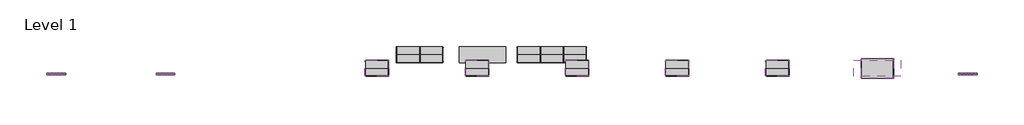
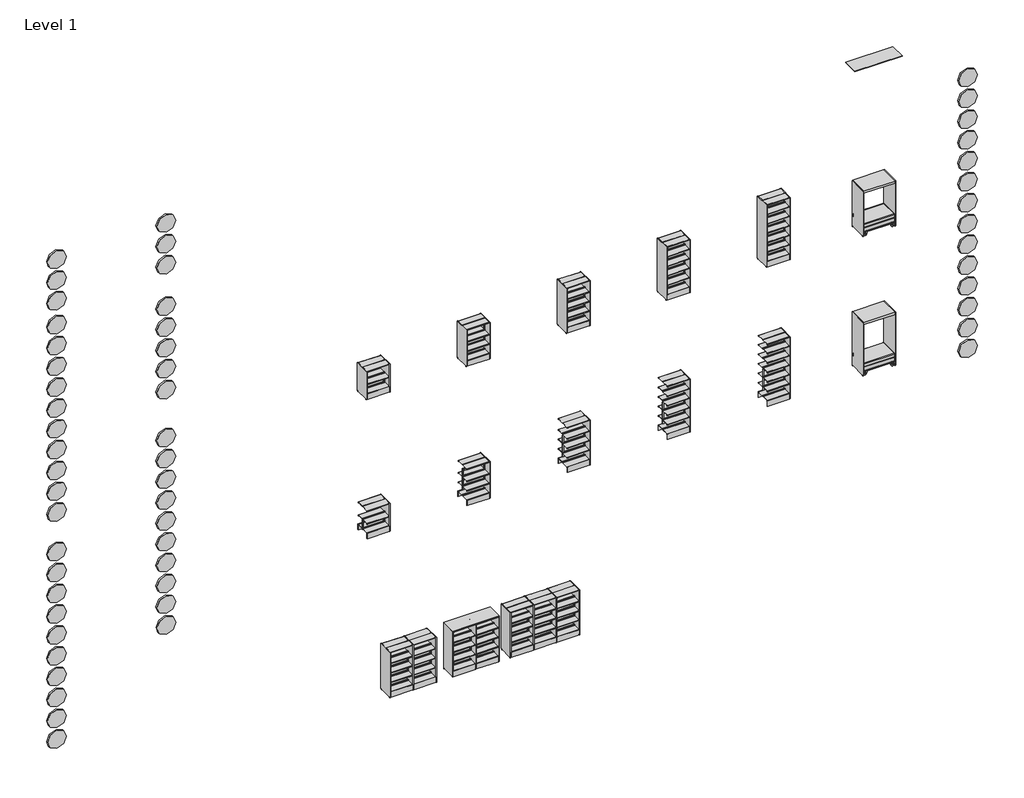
# One storey: 55 proxies, 21 furniture elements.
"""IFC4 building model written with IfcOpenShell, lengths in millimetres."""

from ifc_helpers import new_model, si_unit, origin, place, context, project, spatial, transform, mapped, element, save
from components import materialmodel_materialmodel_37012b21, furniture_c105972a, furniture_34703eb2, furniture_750x510_03b311b1, furniture_750x510_247eee5f, furniture_750x510_6453d18b, furniture_750x510_c864f297, furniture_750x510_94e61f0f, furniture_750x510_f7d4f791, furniture_750x510_ac6173c1, furniture_750x510_6c40ee6c, furniture_750x510_52655885, furniture_750x510_70c1093e, bk_library_sitting_cave_to_shelf_1530_a43be609, bk_library_sitting_cave_to_shelf_1800_9197c93b

model = new_model("IFC4")

# Units and contexts
model_context = context("Model", 3, world=origin())
ifc_project = project(units=[si_unit("LENGTHUNIT", "METRE", prefix="MILLI")], contexts=[model_context])

# Site, building, storey
site = spatial("IfcSite", under=ifc_project)
building = spatial("IfcBuilding", under=site)
storey = spatial("IfcBuildingStorey", under=building, Name="Level 1", Elevation=0.0)

# Proxies
placement = place(None, origin())
materialmodel_materialmodel_shape = materialmodel_materialmodel_37012b21(model_context)
element("IfcBuildingElementProxy", 1, Name="MaterialModel : MaterialModel", ObjectType="MaterialModel : MaterialModel", at=placement, inside=storey, context=model_context, shape_type="MappedRepresentation", body=[
    mapped(materialmodel_materialmodel_shape, transform((-18567.0147555, 6390.3767321, 8420.7797695), x_axis=(1.0, 0.0, 0.0), y_axis=(0.0, 1.0, 0.0), z_axis=(0.0, 0.0, 1.0))),
])
element("IfcBuildingElementProxy", 2, Name="MaterialModel : MaterialModel", ObjectType="MaterialModel : MaterialModel", at=placement, inside=storey, context=model_context, shape_type="MappedRepresentation", body=[
    mapped(materialmodel_materialmodel_shape, transform((-18567.0147555, 6390.3767321, 9123.0950226), x_axis=(1.0, 0.0, 0.0), y_axis=(0.0, 1.0, 0.0), z_axis=(0.0, 0.0, 1.0))),
])
element("IfcBuildingElementProxy", 3, Name="MaterialModel : MaterialModel", ObjectType="MaterialModel : MaterialModel", at=placement, inside=storey, context=model_context, shape_type="MappedRepresentation", body=[
    mapped(materialmodel_materialmodel_shape, transform((-18567.0147555, 6390.3767321, 7718.4645164), x_axis=(1.0, 0.0, 0.0), y_axis=(0.0, 1.0, 0.0), z_axis=(0.0, 0.0, 1.0))),
])
element("IfcBuildingElementProxy", 4, Name="MaterialModel : MaterialModel", ObjectType="MaterialModel : MaterialModel", at=placement, inside=storey, context=model_context, shape_type="MappedRepresentation", body=[
    mapped(materialmodel_materialmodel_shape, transform((-18567.0147555, 6390.3767321, 6313.8340103), x_axis=(1.0, 0.0, 0.0), y_axis=(0.0, 1.0, 0.0), z_axis=(0.0, 0.0, 1.0))),
])
element("IfcBuildingElementProxy", 5, Name="MaterialModel : MaterialModel", ObjectType="MaterialModel : MaterialModel", at=placement, inside=storey, context=model_context, shape_type="MappedRepresentation", body=[
    mapped(materialmodel_materialmodel_shape, transform((-18567.0147555, 6390.3767321, 5611.5187572), x_axis=(1.0, 0.0, 0.0), y_axis=(0.0, 1.0, 0.0), z_axis=(0.0, 0.0, 1.0))),
])
element("IfcBuildingElementProxy", 6, Name="MaterialModel : MaterialModel", ObjectType="MaterialModel : MaterialModel", at=placement, inside=storey, context=model_context, shape_type="MappedRepresentation", body=[
    mapped(materialmodel_materialmodel_shape, transform((-18567.0147555, 6390.3767321, 4909.2035041), x_axis=(1.0, 0.0, 0.0), y_axis=(0.0, 1.0, 0.0), z_axis=(0.0, 0.0, 1.0))),
])
element("IfcBuildingElementProxy", 7, Name="MaterialModel : MaterialModel", ObjectType="MaterialModel : MaterialModel", at=placement, inside=storey, context=model_context, shape_type="MappedRepresentation", body=[
    mapped(materialmodel_materialmodel_shape, transform((-18567.0147555, 6390.3767321, 4206.888251), x_axis=(1.0, 0.0, 0.0), y_axis=(0.0, 1.0, 0.0), z_axis=(0.0, 0.0, 1.0))),
])
element("IfcBuildingElementProxy", 8, Name="MaterialModel : MaterialModel", ObjectType="MaterialModel : MaterialModel", at=placement, inside=storey, context=model_context, shape_type="MappedRepresentation", body=[
    mapped(materialmodel_materialmodel_shape, transform((-18567.0147555, 6390.3767321, 3504.5729979), x_axis=(1.0, 0.0, 0.0), y_axis=(0.0, 1.0, 0.0), z_axis=(0.0, 0.0, 1.0))),
])
element("IfcBuildingElementProxy", 9, Name="MaterialModel : MaterialModel", ObjectType="MaterialModel : MaterialModel", at=placement, inside=storey, context=model_context, shape_type="MappedRepresentation", body=[
    mapped(materialmodel_materialmodel_shape, transform((-18567.0147555, 6390.3767321, 1880.2904747), x_axis=(1.0, 0.0, 0.0), y_axis=(0.0, 1.0, 0.0), z_axis=(0.0, 0.0, 1.0))),
])
element("IfcBuildingElementProxy", 10, Name="MaterialModel : MaterialModel", ObjectType="MaterialModel : MaterialModel", at=placement, inside=storey, context=model_context, shape_type="MappedRepresentation", body=[
    mapped(materialmodel_materialmodel_shape, transform((-18567.0147555, 6390.3767321, 475.6599685), x_axis=(1.0, 0.0, 0.0), y_axis=(0.0, 1.0, 0.0), z_axis=(0.0, 0.0, 1.0))),
])
element("IfcBuildingElementProxy", 11, Name="MaterialModel : MaterialModel", ObjectType="MaterialModel : MaterialModel", at=placement, inside=storey, context=model_context, shape_type="MappedRepresentation", body=[
    mapped(materialmodel_materialmodel_shape, transform((-18567.0147555, 6390.3767321, 1177.9752216), x_axis=(1.0, 0.0, 0.0), y_axis=(0.0, 1.0, 0.0), z_axis=(0.0, 0.0, 1.0))),
])
element("IfcBuildingElementProxy", 12, Name="MaterialModel : MaterialModel", ObjectType="MaterialModel : MaterialModel", at=placement, inside=storey, context=model_context, shape_type="MappedRepresentation", body=[
    mapped(materialmodel_materialmodel_shape, transform((-18567.0147555, 6390.3767321, -928.9705377), x_axis=(1.0, 0.0, 0.0), y_axis=(0.0, 1.0, 0.0), z_axis=(0.0, 0.0, 1.0))),
])
element("IfcBuildingElementProxy", 13, Name="MaterialModel : MaterialModel", ObjectType="MaterialModel : MaterialModel", at=placement, inside=storey, context=model_context, shape_type="MappedRepresentation", body=[
    mapped(materialmodel_materialmodel_shape, transform((-18567.0147555, 6390.3767321, -226.6552846), x_axis=(1.0, 0.0, 0.0), y_axis=(0.0, 1.0, 0.0), z_axis=(0.0, 0.0, 1.0))),
])
element("IfcBuildingElementProxy", 14, Name="MaterialModel : MaterialModel", ObjectType="MaterialModel : MaterialModel", at=placement, inside=storey, context=model_context, shape_type="MappedRepresentation", body=[
    mapped(materialmodel_materialmodel_shape, transform((-18567.0147555, 6390.3767321, -2333.6010438), x_axis=(1.0, 0.0, 0.0), y_axis=(0.0, 1.0, 0.0), z_axis=(0.0, 0.0, 1.0))),
])
element("IfcBuildingElementProxy", 15, Name="MaterialModel : MaterialModel", ObjectType="MaterialModel : MaterialModel", at=placement, inside=storey, context=model_context, shape_type="MappedRepresentation", body=[
    mapped(materialmodel_materialmodel_shape, transform((-18567.0147555, 6390.3767321, -1631.2857907), x_axis=(1.0, 0.0, 0.0), y_axis=(0.0, 1.0, 0.0), z_axis=(0.0, 0.0, 1.0))),
])
element("IfcBuildingElementProxy", 16, Name="MaterialModel : MaterialModel", ObjectType="MaterialModel : MaterialModel", at=placement, inside=storey, context=model_context, shape_type="MappedRepresentation", body=[
    mapped(materialmodel_materialmodel_shape, transform((-18567.0147555, 6390.3767321, -3738.23155), x_axis=(1.0, 0.0, 0.0), y_axis=(0.0, 1.0, 0.0), z_axis=(0.0, 0.0, 1.0))),
])
element("IfcBuildingElementProxy", 17, Name="MaterialModel : MaterialModel", ObjectType="MaterialModel : MaterialModel", at=placement, inside=storey, context=model_context, shape_type="MappedRepresentation", body=[
    mapped(materialmodel_materialmodel_shape, transform((-18567.0147555, 6390.3767321, -3035.9162969), x_axis=(1.0, 0.0, 0.0), y_axis=(0.0, 1.0, 0.0), z_axis=(0.0, 0.0, 1.0))),
])
element("IfcBuildingElementProxy", 18, Name="MaterialModel : MaterialModel", ObjectType="MaterialModel : MaterialModel", at=placement, inside=storey, context=model_context, shape_type="MappedRepresentation", body=[
    mapped(materialmodel_materialmodel_shape, transform((-18562.8693038, 6390.3767321, -4440.5468031), x_axis=(1.0, 0.0, 0.0), y_axis=(0.0, 1.0, 0.0), z_axis=(0.0, 0.0, 1.0))),
])
element("IfcBuildingElementProxy", 19, Name="MaterialModel : MaterialModel", ObjectType="MaterialModel : MaterialModel", at=placement, inside=storey, context=model_context, shape_type="MappedRepresentation", body=[
    mapped(materialmodel_materialmodel_shape, transform((6997.3918806, 6390.3767321, 4380.0096307), x_axis=(1.0, 0.0, 0.0), y_axis=(0.0, 1.0, 0.0), z_axis=(0.0, 0.0, 1.0))),
])
element("IfcBuildingElementProxy", 20, Name="MaterialModel : MaterialModel", ObjectType="MaterialModel : MaterialModel", at=placement, inside=storey, context=model_context, shape_type="MappedRepresentation", body=[
    mapped(materialmodel_materialmodel_shape, transform((6997.3918806, 6390.3767321, 5082.3248837), x_axis=(1.0, 0.0, 0.0), y_axis=(0.0, 1.0, 0.0), z_axis=(0.0, 0.0, 1.0))),
])
element("IfcBuildingElementProxy", 21, Name="MaterialModel : MaterialModel", ObjectType="MaterialModel : MaterialModel", at=placement, inside=storey, context=model_context, shape_type="MappedRepresentation", body=[
    mapped(materialmodel_materialmodel_shape, transform((6997.3918806, 6390.3767321, 2975.3791245), x_axis=(1.0, 0.0, 0.0), y_axis=(0.0, 1.0, 0.0), z_axis=(0.0, 0.0, 1.0))),
])
element("IfcBuildingElementProxy", 22, Name="MaterialModel : MaterialModel", ObjectType="MaterialModel : MaterialModel", at=placement, inside=storey, context=model_context, shape_type="MappedRepresentation", body=[
    mapped(materialmodel_materialmodel_shape, transform((6997.3918806, 6390.3767321, 3677.6943776), x_axis=(1.0, 0.0, 0.0), y_axis=(0.0, 1.0, 0.0), z_axis=(0.0, 0.0, 1.0))),
])
element("IfcBuildingElementProxy", 23, Name="MaterialModel : MaterialModel", ObjectType="MaterialModel : MaterialModel", at=placement, inside=storey, context=model_context, shape_type="MappedRepresentation", body=[
    mapped(materialmodel_materialmodel_shape, transform((6997.3918806, 6390.3767321, 1570.7486183), x_axis=(1.0, 0.0, 0.0), y_axis=(0.0, 1.0, 0.0), z_axis=(0.0, 0.0, 1.0))),
])
element("IfcBuildingElementProxy", 24, Name="MaterialModel : MaterialModel", ObjectType="MaterialModel : MaterialModel", at=placement, inside=storey, context=model_context, shape_type="MappedRepresentation", body=[
    mapped(materialmodel_materialmodel_shape, transform((6997.3918806, 6390.3767321, 2273.0638714), x_axis=(1.0, 0.0, 0.0), y_axis=(0.0, 1.0, 0.0), z_axis=(0.0, 0.0, 1.0))),
])
element("IfcBuildingElementProxy", 25, Name="MaterialModel : MaterialModel", ObjectType="MaterialModel : MaterialModel", at=placement, inside=storey, context=model_context, shape_type="MappedRepresentation", body=[
    mapped(materialmodel_materialmodel_shape, transform((6997.3918806, 6390.3767321, 857.8970235), x_axis=(1.0, 0.0, 0.0), y_axis=(0.0, 1.0, 0.0), z_axis=(0.0, 0.0, 1.0))),
])
element("IfcBuildingElementProxy", 26, Name="MaterialModel : MaterialModel", ObjectType="MaterialModel : MaterialModel", at=placement, inside=storey, context=model_context, shape_type="MappedRepresentation", body=[
    mapped(materialmodel_materialmodel_shape, transform((6997.3918806, 6390.3767321, -546.7334827), x_axis=(1.0, 0.0, 0.0), y_axis=(0.0, 1.0, 0.0), z_axis=(0.0, 0.0, 1.0))),
])
element("IfcBuildingElementProxy", 27, Name="MaterialModel : MaterialModel", ObjectType="MaterialModel : MaterialModel", at=placement, inside=storey, context=model_context, shape_type="MappedRepresentation", body=[
    mapped(materialmodel_materialmodel_shape, transform((6997.3918806, 6390.3767321, 155.5817704), x_axis=(1.0, 0.0, 0.0), y_axis=(0.0, 1.0, 0.0), z_axis=(0.0, 0.0, 1.0))),
])
element("IfcBuildingElementProxy", 28, Name="MaterialModel : MaterialModel", ObjectType="MaterialModel : MaterialModel", at=placement, inside=storey, context=model_context, shape_type="MappedRepresentation", body=[
    mapped(materialmodel_materialmodel_shape, transform((6997.3918806, 6390.3767321, -1951.3639888), x_axis=(1.0, 0.0, 0.0), y_axis=(0.0, 1.0, 0.0), z_axis=(0.0, 0.0, 1.0))),
])
element("IfcBuildingElementProxy", 29, Name="MaterialModel : MaterialModel", ObjectType="MaterialModel : MaterialModel", at=placement, inside=storey, context=model_context, shape_type="MappedRepresentation", body=[
    mapped(materialmodel_materialmodel_shape, transform((6997.3918806, 6390.3767321, -1249.0487358), x_axis=(1.0, 0.0, 0.0), y_axis=(0.0, 1.0, 0.0), z_axis=(0.0, 0.0, 1.0))),
])
element("IfcBuildingElementProxy", 30, Name="MaterialModel : MaterialModel", ObjectType="MaterialModel : MaterialModel", at=placement, inside=storey, context=model_context, shape_type="MappedRepresentation", body=[
    mapped(materialmodel_materialmodel_shape, transform((6997.3918806, 6390.3767321, -3355.994495), x_axis=(1.0, 0.0, 0.0), y_axis=(0.0, 1.0, 0.0), z_axis=(0.0, 0.0, 1.0))),
])
element("IfcBuildingElementProxy", 31, Name="MaterialModel : MaterialModel", ObjectType="MaterialModel : MaterialModel", at=placement, inside=storey, context=model_context, shape_type="MappedRepresentation", body=[
    mapped(materialmodel_materialmodel_shape, transform((6997.3918806, 6390.3767321, -2653.6792419), x_axis=(1.0, 0.0, 0.0), y_axis=(0.0, 1.0, 0.0), z_axis=(0.0, 0.0, 1.0))),
])
element("IfcBuildingElementProxy", 32, Name="MaterialModel : MaterialModel", ObjectType="MaterialModel : MaterialModel", at=placement, inside=storey, context=model_context, shape_type="MappedRepresentation", body=[
    mapped(materialmodel_materialmodel_shape, transform((7001.5373322, 6390.3767321, -4058.3097481), x_axis=(1.0, 0.0, 0.0), y_axis=(0.0, 1.0, 0.0), z_axis=(0.0, 0.0, 1.0))),
])
element("IfcBuildingElementProxy", 33, Name="MaterialModel : MaterialModel", ObjectType="MaterialModel : MaterialModel", at=placement, inside=storey, context=model_context, shape_type="MappedRepresentation", body=[
    mapped(materialmodel_materialmodel_shape, transform((-22054.7019973, 6390.3767321, -742.9434338), x_axis=(1.0, 0.0, 0.0), y_axis=(0.0, 1.0, 0.0), z_axis=(0.0, 0.0, 1.0))),
])
element("IfcBuildingElementProxy", 34, Name="MaterialModel : MaterialModel", ObjectType="MaterialModel : MaterialModel", at=placement, inside=storey, context=model_context, shape_type="MappedRepresentation", body=[
    mapped(materialmodel_materialmodel_shape, transform((-22054.7019973, 6390.3767321, -2147.57394), x_axis=(1.0, 0.0, 0.0), y_axis=(0.0, 1.0, 0.0), z_axis=(0.0, 0.0, 1.0))),
])
element("IfcBuildingElementProxy", 35, Name="MaterialModel : MaterialModel", ObjectType="MaterialModel : MaterialModel", at=placement, inside=storey, context=model_context, shape_type="MappedRepresentation", body=[
    mapped(materialmodel_materialmodel_shape, transform((-22054.7019973, 6390.3767321, -1445.2586869), x_axis=(1.0, 0.0, 0.0), y_axis=(0.0, 1.0, 0.0), z_axis=(0.0, 0.0, 1.0))),
])
element("IfcBuildingElementProxy", 36, Name="MaterialModel : MaterialModel", ObjectType="MaterialModel : MaterialModel", at=placement, inside=storey, context=model_context, shape_type="MappedRepresentation", body=[
    mapped(materialmodel_materialmodel_shape, transform((-22054.7019973, 6390.3767321, -3552.2044461), x_axis=(1.0, 0.0, 0.0), y_axis=(0.0, 1.0, 0.0), z_axis=(0.0, 0.0, 1.0))),
])
element("IfcBuildingElementProxy", 37, Name="MaterialModel : MaterialModel", ObjectType="MaterialModel : MaterialModel", at=placement, inside=storey, context=model_context, shape_type="MappedRepresentation", body=[
    mapped(materialmodel_materialmodel_shape, transform((-22054.7019973, 6390.3767321, -2849.8891931), x_axis=(1.0, 0.0, 0.0), y_axis=(0.0, 1.0, 0.0), z_axis=(0.0, 0.0, 1.0))),
])
element("IfcBuildingElementProxy", 38, Name="MaterialModel : MaterialModel", ObjectType="MaterialModel : MaterialModel", at=placement, inside=storey, context=model_context, shape_type="MappedRepresentation", body=[
    mapped(materialmodel_materialmodel_shape, transform((-22054.7019973, 6390.3767321, -4956.8349523), x_axis=(1.0, 0.0, 0.0), y_axis=(0.0, 1.0, 0.0), z_axis=(0.0, 0.0, 1.0))),
])
element("IfcBuildingElementProxy", 39, Name="MaterialModel : MaterialModel", ObjectType="MaterialModel : MaterialModel", at=placement, inside=storey, context=model_context, shape_type="MappedRepresentation", body=[
    mapped(materialmodel_materialmodel_shape, transform((-22054.7019973, 6390.3767321, -4254.5196992), x_axis=(1.0, 0.0, 0.0), y_axis=(0.0, 1.0, 0.0), z_axis=(0.0, 0.0, 1.0))),
])
element("IfcBuildingElementProxy", 40, Name="MaterialModel : MaterialModel", ObjectType="MaterialModel : MaterialModel", at=placement, inside=storey, context=model_context, shape_type="MappedRepresentation", body=[
    mapped(materialmodel_materialmodel_shape, transform((-22054.7019973, 6390.3767321, -6361.4654585), x_axis=(1.0, 0.0, 0.0), y_axis=(0.0, 1.0, 0.0), z_axis=(0.0, 0.0, 1.0))),
])
element("IfcBuildingElementProxy", 41, Name="MaterialModel : MaterialModel", ObjectType="MaterialModel : MaterialModel", at=placement, inside=storey, context=model_context, shape_type="MappedRepresentation", body=[
    mapped(materialmodel_materialmodel_shape, transform((-22054.7019973, 6390.3767321, -5659.1502054), x_axis=(1.0, 0.0, 0.0), y_axis=(0.0, 1.0, 0.0), z_axis=(0.0, 0.0, 1.0))),
])
element("IfcBuildingElementProxy", 42, Name="MaterialModel : MaterialModel", ObjectType="MaterialModel : MaterialModel", at=placement, inside=storey, context=model_context, shape_type="MappedRepresentation", body=[
    mapped(materialmodel_materialmodel_shape, transform((-22050.5565457, 6390.3767321, -7063.7807116), x_axis=(1.0, 0.0, 0.0), y_axis=(0.0, 1.0, 0.0), z_axis=(0.0, 0.0, 1.0))),
])
element("IfcBuildingElementProxy", 43, Name="MaterialModel : MaterialModel", ObjectType="MaterialModel : MaterialModel", at=placement, inside=storey, context=model_context, shape_type="MappedRepresentation", body=[
    mapped(materialmodel_materialmodel_shape, transform((-22054.7019973, 6390.3767321, 8420.7797695), x_axis=(1.0, 0.0, 0.0), y_axis=(0.0, 1.0, 0.0), z_axis=(0.0, 0.0, 1.0))),
])
element("IfcBuildingElementProxy", 44, Name="MaterialModel : MaterialModel", ObjectType="MaterialModel : MaterialModel", at=placement, inside=storey, context=model_context, shape_type="MappedRepresentation", body=[
    mapped(materialmodel_materialmodel_shape, transform((-22054.7019973, 6390.3767321, 9123.0950226), x_axis=(1.0, 0.0, 0.0), y_axis=(0.0, 1.0, 0.0), z_axis=(0.0, 0.0, 1.0))),
])
element("IfcBuildingElementProxy", 45, Name="MaterialModel : MaterialModel", ObjectType="MaterialModel : MaterialModel", at=placement, inside=storey, context=model_context, shape_type="MappedRepresentation", body=[
    mapped(materialmodel_materialmodel_shape, transform((-22054.7019973, 6390.3767321, 6913.8340103), x_axis=(1.0, 0.0, 0.0), y_axis=(0.0, 1.0, 0.0), z_axis=(0.0, 0.0, 1.0))),
])
element("IfcBuildingElementProxy", 46, Name="MaterialModel : MaterialModel", ObjectType="MaterialModel : MaterialModel", at=placement, inside=storey, context=model_context, shape_type="MappedRepresentation", body=[
    mapped(materialmodel_materialmodel_shape, transform((-22054.7019973, 6390.3767321, 7718.4645164), x_axis=(1.0, 0.0, 0.0), y_axis=(0.0, 1.0, 0.0), z_axis=(0.0, 0.0, 1.0))),
])
element("IfcBuildingElementProxy", 47, Name="MaterialModel : MaterialModel", ObjectType="MaterialModel : MaterialModel", at=placement, inside=storey, context=model_context, shape_type="MappedRepresentation", body=[
    mapped(materialmodel_materialmodel_shape, transform((-22054.7019973, 6390.3767321, 5509.2035041), x_axis=(1.0, 0.0, 0.0), y_axis=(0.0, 1.0, 0.0), z_axis=(0.0, 0.0, 1.0))),
])
element("IfcBuildingElementProxy", 48, Name="MaterialModel : MaterialModel", ObjectType="MaterialModel : MaterialModel", at=placement, inside=storey, context=model_context, shape_type="MappedRepresentation", body=[
    mapped(materialmodel_materialmodel_shape, transform((-22054.7019973, 6390.3767321, 6211.5187572), x_axis=(1.0, 0.0, 0.0), y_axis=(0.0, 1.0, 0.0), z_axis=(0.0, 0.0, 1.0))),
])
element("IfcBuildingElementProxy", 49, Name="MaterialModel : MaterialModel", ObjectType="MaterialModel : MaterialModel", at=placement, inside=storey, context=model_context, shape_type="MappedRepresentation", body=[
    mapped(materialmodel_materialmodel_shape, transform((-22054.7019973, 6390.3767321, 4104.5729979), x_axis=(1.0, 0.0, 0.0), y_axis=(0.0, 1.0, 0.0), z_axis=(0.0, 0.0, 1.0))),
])
element("IfcBuildingElementProxy", 50, Name="MaterialModel : MaterialModel", ObjectType="MaterialModel : MaterialModel", at=placement, inside=storey, context=model_context, shape_type="MappedRepresentation", body=[
    mapped(materialmodel_materialmodel_shape, transform((-22054.7019973, 6390.3767321, 4806.888251), x_axis=(1.0, 0.0, 0.0), y_axis=(0.0, 1.0, 0.0), z_axis=(0.0, 0.0, 1.0))),
])
element("IfcBuildingElementProxy", 51, Name="MaterialModel : MaterialModel", ObjectType="MaterialModel : MaterialModel", at=placement, inside=storey, context=model_context, shape_type="MappedRepresentation", body=[
    mapped(materialmodel_materialmodel_shape, transform((-22054.7019973, 6390.3767321, 2699.9424918), x_axis=(1.0, 0.0, 0.0), y_axis=(0.0, 1.0, 0.0), z_axis=(0.0, 0.0, 1.0))),
])
element("IfcBuildingElementProxy", 52, Name="MaterialModel : MaterialModel", ObjectType="MaterialModel : MaterialModel", at=placement, inside=storey, context=model_context, shape_type="MappedRepresentation", body=[
    mapped(materialmodel_materialmodel_shape, transform((-22054.7019973, 6390.3767321, 3402.2577448), x_axis=(1.0, 0.0, 0.0), y_axis=(0.0, 1.0, 0.0), z_axis=(0.0, 0.0, 1.0))),
])
element("IfcBuildingElementProxy", 53, Name="MaterialModel : MaterialModel", ObjectType="MaterialModel : MaterialModel", at=placement, inside=storey, context=model_context, shape_type="MappedRepresentation", body=[
    mapped(materialmodel_materialmodel_shape, transform((-22054.7019973, 6390.3767321, 1295.3119856), x_axis=(1.0, 0.0, 0.0), y_axis=(0.0, 1.0, 0.0), z_axis=(0.0, 0.0, 1.0))),
])
element("IfcBuildingElementProxy", 54, Name="MaterialModel : MaterialModel", ObjectType="MaterialModel : MaterialModel", at=placement, inside=storey, context=model_context, shape_type="MappedRepresentation", body=[
    mapped(materialmodel_materialmodel_shape, transform((-22054.7019973, 6390.3767321, 1997.6272387), x_axis=(1.0, 0.0, 0.0), y_axis=(0.0, 1.0, 0.0), z_axis=(0.0, 0.0, 1.0))),
])
element("IfcBuildingElementProxy", 55, Name="MaterialModel : MaterialModel", ObjectType="MaterialModel : MaterialModel", at=placement, inside=storey, context=model_context, shape_type="MappedRepresentation", body=[
    mapped(materialmodel_materialmodel_shape, transform((-22050.5565457, 6390.3767321, 592.9967325), x_axis=(1.0, 0.0, 0.0), y_axis=(0.0, 1.0, 0.0), z_axis=(0.0, 0.0, 1.0))),
])

# Furniture
furniture_shape = furniture_c105972a(model_context)
element("IfcFurniture", 56, ObjectType="BK Library - Top Plate - HYOT : BK Library - Top Plate - HYOT", at=placement, inside=storey, context=model_context, shape_type="MappedRepresentation", body=[
    mapped(furniture_shape, transform((4114.1302204, 6539.3767164, 6900.3766671), x_axis=(1.0, 0.0, 0.0), y_axis=(0.0, 1.0, 0.0), z_axis=(0.0, 0.0, 1.0))),
])
furniture_2_shape = furniture_34703eb2(model_context)
element("IfcFurniture", 57, ObjectType="BK Library - Top Plate - HYOT : BK Library - Top Plate - HYOT", at=placement, inside=storey, context=model_context, shape_type="MappedRepresentation", body=[
    mapped(furniture_2_shape, transform((-8465.6341915, 6981.3401314, -7860.5), x_axis=(1.0, 0.0, 0.0), y_axis=(0.0, 1.0, 0.0), z_axis=(0.0, 0.0, 1.0))),
])
furniture_750x510_shape = furniture_750x510_03b311b1(model_context)
element("IfcFurniture", 58, ObjectType="BK Library - Rondus DS - 2100 : 750x510", at=placement, inside=storey, context=model_context, shape_type="MappedRepresentation", body=[
    mapped(furniture_750x510_shape, transform((924.1302204, 6539.3767164, 1273.9383366), x_axis=(1.0, 0.0, 0.0), y_axis=(0.0, 1.0, 0.0), z_axis=(0.0, 0.0, 1.0))),
])
furniture_750x510_2_shape = furniture_750x510_247eee5f(model_context)
element("IfcFurniture", 59, ObjectType="BK Library - Rondus DS - 1800 : 750x510", at=placement, inside=storey, context=model_context, shape_type="MappedRepresentation", body=[
    mapped(furniture_750x510_2_shape, transform((-2265.8697796, 6539.3767164, 1273.9383366), x_axis=(1.0, 0.0, 0.0), y_axis=(0.0, 1.0, 0.0), z_axis=(0.0, 0.0, 1.0))),
])
furniture_750x510_3_shape = furniture_750x510_6453d18b(model_context)
element("IfcFurniture", 60, ObjectType="BK Library - Rondus DS - 1530 : 750x510", at=placement, inside=storey, context=model_context, shape_type="MappedRepresentation", body=[
    mapped(furniture_750x510_3_shape, transform((-10831.1347342, 6981.3401314, -9400.0), x_axis=(1.0, 0.0, 0.0), y_axis=(0.0, 1.0, 0.0), z_axis=(0.0, 0.0, 1.0))),
])
element("IfcFurniture", 61, ObjectType="BK Library - Rondus DS - 1530 : 750x510", at=placement, inside=storey, context=model_context, shape_type="MappedRepresentation", body=[
    mapped(furniture_750x510_3_shape, transform((-6991.1347342, 6981.3401314, -9400.0), x_axis=(1.0, 0.0, 0.0), y_axis=(0.0, 1.0, 0.0), z_axis=(0.0, 0.0, 1.0))),
])
element("IfcFurniture", 62, ObjectType="BK Library - Rondus DS - 1530 : 750x510", at=placement, inside=storey, context=model_context, shape_type="MappedRepresentation", body=[
    mapped(furniture_750x510_3_shape, transform((-5455.8697796, 6539.3767164, 1273.9383366), x_axis=(1.0, 0.0, 0.0), y_axis=(0.0, 1.0, 0.0), z_axis=(0.0, 0.0, 1.0))),
])
element("IfcFurniture", 63, ObjectType="BK Library - Rondus DS - 1530 : 750x510", at=placement, inside=storey, context=model_context, shape_type="MappedRepresentation", body=[
    mapped(furniture_750x510_3_shape, transform((-8831.1347342, 6981.3401314, -9400.0), x_axis=(1.0, 0.0, 0.0), y_axis=(0.0, 1.0, 0.0), z_axis=(0.0, 0.0, 1.0))),
])
furniture_750x510_4_shape = furniture_750x510_c864f297(model_context)
element("IfcFurniture", 64, ObjectType="BK Library - Rondus DS - 1240 : 750x510", at=placement, inside=storey, context=model_context, shape_type="MappedRepresentation", body=[
    mapped(furniture_750x510_4_shape, transform((-8645.8697796, 6539.3767164, 1273.9383366), x_axis=(1.0, 0.0, 0.0), y_axis=(0.0, 1.0, 0.0), z_axis=(0.0, 0.0, 1.0))),
])
furniture_750x510_5_shape = furniture_750x510_94e61f0f(model_context)
element("IfcFurniture", 65, ObjectType="BK Library - Rondus DS - 950 : 750x510", at=placement, inside=storey, context=model_context, shape_type="MappedRepresentation", body=[
    mapped(furniture_750x510_5_shape, transform((-11835.8697796, 6539.3767164, 1273.9383366), x_axis=(1.0, 0.0, 0.0), y_axis=(0.0, 1.0, 0.0), z_axis=(0.0, 0.0, 1.0))),
])
furniture_750x510_6_shape = furniture_750x510_f7d4f791(model_context)
element("IfcFurniture", 66, ObjectType="BK Library - Rondus DF - 2100 : 750x510", at=placement, inside=storey, context=model_context, shape_type="MappedRepresentation", body=[
    mapped(furniture_750x510_6_shape, transform((924.1302204, 6539.3767164, -3426.0616634), x_axis=(1.0, 0.0, 0.0), y_axis=(0.0, 1.0, 0.0), z_axis=(0.0, 0.0, 1.0))),
])
furniture_750x510_7_shape = furniture_750x510_ac6173c1(model_context)
element("IfcFurniture", 67, ObjectType="BK Library - Rondus DF - 1800 : 750x510", at=placement, inside=storey, context=model_context, shape_type="MappedRepresentation", body=[
    mapped(furniture_750x510_7_shape, transform((-2265.8697796, 6539.3767164, -3426.0616634), x_axis=(1.0, 0.0, 0.0), y_axis=(0.0, 1.0, 0.0), z_axis=(0.0, 0.0, 1.0))),
])
furniture_750x510_8_shape = furniture_750x510_6c40ee6c(model_context)
element("IfcFurniture", 68, ObjectType="BK Library - Rondus DF - 1530 : 750x510", at=placement, inside=storey, context=model_context, shape_type="MappedRepresentation", body=[
    mapped(furniture_750x510_8_shape, transform((-10100.1347342, 6981.3401314, -9400.0), x_axis=(1.0, 0.0, 0.0), y_axis=(0.0, 1.0, 0.0), z_axis=(0.0, 0.0, 1.0))),
])
element("IfcFurniture", 69, ObjectType="BK Library - Rondus DF - 1530 : 750x510", at=placement, inside=storey, context=model_context, shape_type="MappedRepresentation", body=[
    mapped(furniture_750x510_8_shape, transform((-6260.1347342, 6981.3401314, -9400.0), x_axis=(1.0, 0.0, 0.0), y_axis=(0.0, 1.0, 0.0), z_axis=(0.0, 0.0, 1.0))),
])
element("IfcFurniture", 70, ObjectType="BK Library - Rondus DF - 1530 : 750x510", at=placement, inside=storey, context=model_context, shape_type="MappedRepresentation", body=[
    mapped(furniture_750x510_8_shape, transform((-5529.1347342, 6981.3401314, -9400.0), x_axis=(1.0, 0.0, 0.0), y_axis=(0.0, 1.0, 0.0), z_axis=(0.0, 0.0, 1.0))),
])
element("IfcFurniture", 71, ObjectType="BK Library - Rondus DF - 1530 : 750x510", at=placement, inside=storey, context=model_context, shape_type="MappedRepresentation", body=[
    mapped(furniture_750x510_8_shape, transform((-5455.8697796, 6539.3767164, -3426.0616634), x_axis=(1.0, 0.0, 0.0), y_axis=(0.0, 1.0, 0.0), z_axis=(0.0, 0.0, 1.0))),
])
element("IfcFurniture", 72, ObjectType="BK Library - Rondus DF - 1530 : 750x510", at=placement, inside=storey, context=model_context, shape_type="MappedRepresentation", body=[
    mapped(furniture_750x510_8_shape, transform((-8100.1347342, 6981.3401314, -9400.0), x_axis=(1.0, 0.0, 0.0), y_axis=(0.0, 1.0, 0.0), z_axis=(0.0, 0.0, 1.0))),
])
furniture_750x510_9_shape = furniture_750x510_52655885(model_context)
element("IfcFurniture", 73, ObjectType="BK Library - Rondus DF - 1240 : 750x510", at=placement, inside=storey, context=model_context, shape_type="MappedRepresentation", body=[
    mapped(furniture_750x510_9_shape, transform((-8645.8697796, 6539.3767164, -3426.0616634), x_axis=(1.0, 0.0, 0.0), y_axis=(0.0, 1.0, 0.0), z_axis=(0.0, 0.0, 1.0))),
])
furniture_750x510_10_shape = furniture_750x510_70c1093e(model_context)
element("IfcFurniture", 74, ObjectType="BK Library - Rondus DF - 950 : 750x510", at=placement, inside=storey, context=model_context, shape_type="MappedRepresentation", body=[
    mapped(furniture_750x510_10_shape, transform((-11835.8697796, 6539.3767164, -3426.0616634), x_axis=(1.0, 0.0, 0.0), y_axis=(0.0, 1.0, 0.0), z_axis=(0.0, 0.0, 1.0))),
])
bk_library_sitting_cave_to_shelf_1530_shape = bk_library_sitting_cave_to_shelf_1530_a43be609(model_context)
element("IfcFurniture", 75, ObjectType="BK Library - Sitting Cave to Shelf : 1530", at=placement, inside=storey, context=model_context, shape_type="MappedRepresentation", body=[
    mapped(bk_library_sitting_cave_to_shelf_1530_shape, transform((4114.1302204, 6539.3767164, 1273.9383366), x_axis=(1.0, 0.0, 0.0), y_axis=(0.0, 1.0, 0.0), z_axis=(0.0, 0.0, 1.0))),
])
bk_library_sitting_cave_to_shelf_1800_shape = bk_library_sitting_cave_to_shelf_1800_9197c93b(model_context)
element("IfcFurniture", 76, ObjectType="BK Library - Sitting Cave to Shelf : 1800", at=placement, inside=storey, context=model_context, shape_type="MappedRepresentation", body=[
    mapped(bk_library_sitting_cave_to_shelf_1800_shape, transform((4114.1302204, 6539.3767164, -3426.0616634), x_axis=(1.0, 0.0, 0.0), y_axis=(0.0, 1.0, 0.0), z_axis=(0.0, 0.0, 1.0))),
])

save(model, "model.ifc")
